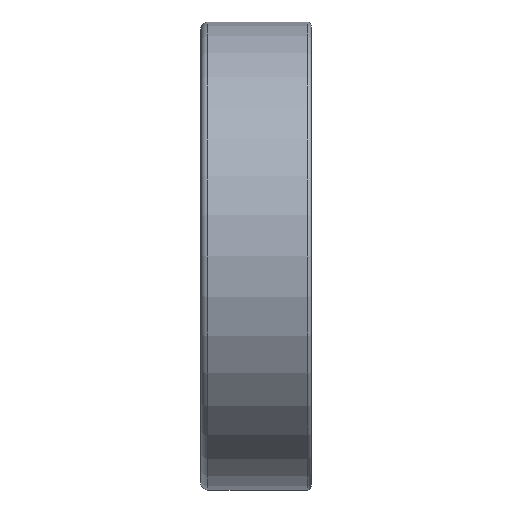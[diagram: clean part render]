
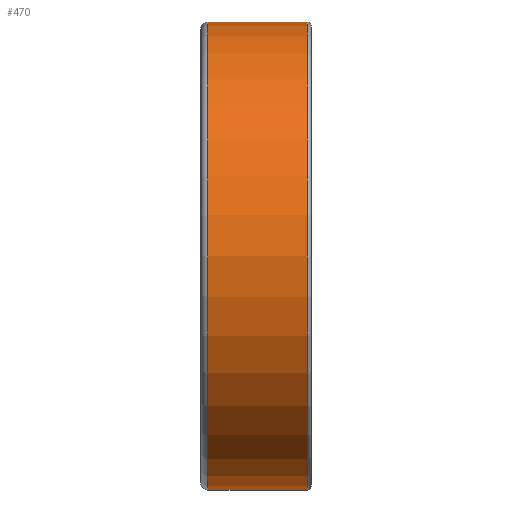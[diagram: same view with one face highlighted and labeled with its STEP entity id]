
A CAD part, front view. The second image highlights one B-rep face of the part: STEP entity #470.
In plain terms, the highlighted cylindrical face has radius 36 mm (diameter 72 mm), a full revolution.
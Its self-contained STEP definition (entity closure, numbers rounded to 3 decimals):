
#152=CYLINDRICAL_SURFACE('',#722,36.);
#232=EDGE_LOOP('',(#324));
#233=EDGE_LOOP('',(#325));
#324=ORIENTED_EDGE('',*,*,#378,.F.);
#325=ORIENTED_EDGE('',*,*,#376,.T.);
#376=EDGE_CURVE('',#659,#659,#396,.T.);
#378=EDGE_CURVE('',#661,#661,#398,.T.);
#396=CIRCLE('',#718,36.);
#398=CIRCLE('',#721,36.);
#470=ADVANCED_FACE('',(#581,#582),#152,.T.);
#581=FACE_BOUND('',#232,.T.);
#582=FACE_BOUND('',#233,.T.);
#659=VERTEX_POINT('',#1434);
#661=VERTEX_POINT('',#1439);
#718=AXIS2_PLACEMENT_3D('',#1433,#831,#832);
#721=AXIS2_PLACEMENT_3D('',#1438,#837,#838);
#722=AXIS2_PLACEMENT_3D('',#1440,#839,#840);
#831=DIRECTION('',(1.,0.,0.));
#832=DIRECTION('',(0.,0.,-1.));
#837=DIRECTION('',(1.,0.,0.));
#838=DIRECTION('',(0.,0.,-1.));
#839=DIRECTION('',(1.,0.,0.));
#840=DIRECTION('',(0.,0.,-1.));
#1433=CARTESIAN_POINT('',(-7.4,0.,0.));
#1434=CARTESIAN_POINT('',(-7.4,0.,-36.));
#1438=CARTESIAN_POINT('',(7.9,0.,0.));
#1439=CARTESIAN_POINT('',(7.9,0.,-36.));
#1440=CARTESIAN_POINT('',(-7.4,0.,0.));
